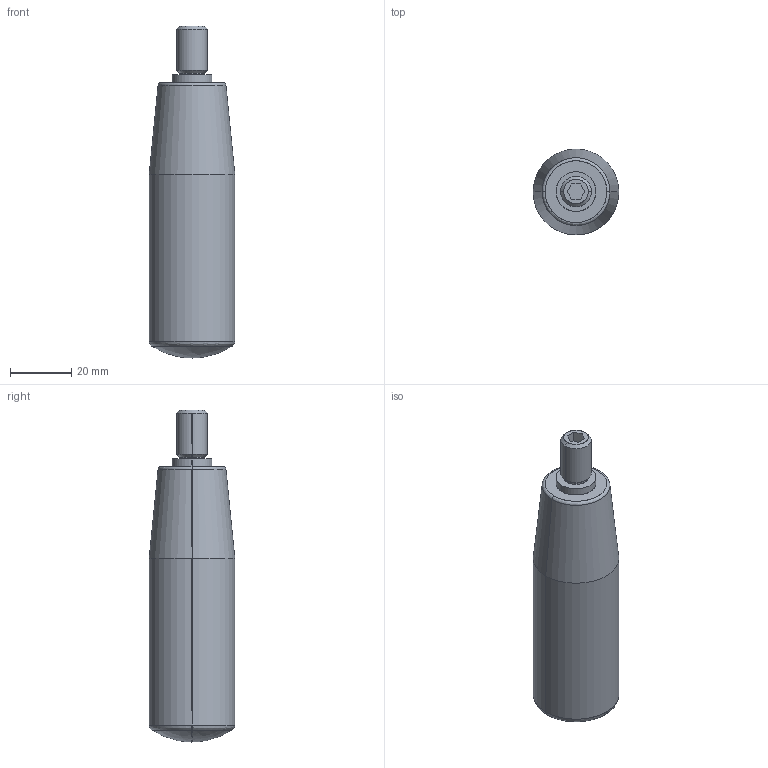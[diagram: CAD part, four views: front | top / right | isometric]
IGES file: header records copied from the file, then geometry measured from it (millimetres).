
Start section: SolidWorks IGES file using analytic representation for surfaces
Global section: file name: C:\HEMSIDA\cad\SLDPRT_2010\gn598\\gn598_90_m10.igs; native system: SolidWorks 2010; preprocessor: SolidWorks 2010; author: Administrator; date: 101001.152019; units: millimetre
Bounding box: 28 x 28 x 108.5 mm (x, y, z)
Surface area: 8975.4 mm2 (no closed solid volume)
Topology: 0 solids, 0 shells, 30 faces, 276 edges, 274 vertices
Faces by surface type: bspline 16, revolution 14
